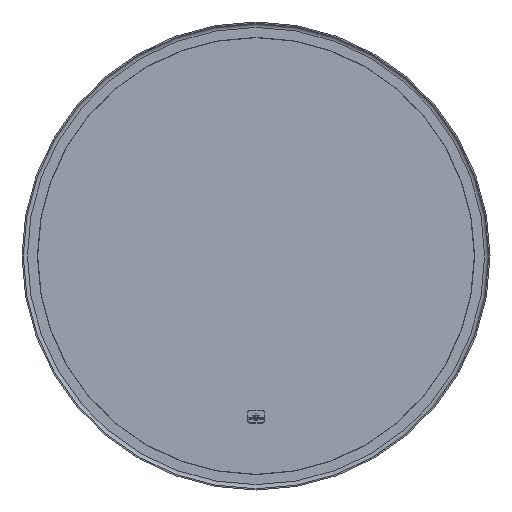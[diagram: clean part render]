
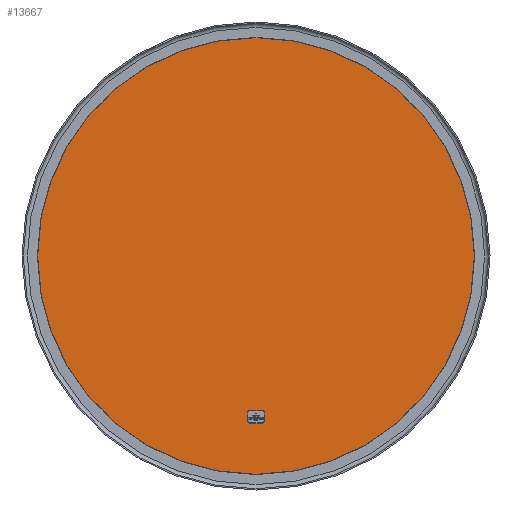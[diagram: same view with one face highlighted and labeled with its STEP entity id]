
A CAD part, front view. The second image highlights one B-rep face of the part: STEP entity #13667.
In plain terms, the highlighted planar face has unit normal (0, -1, 0).
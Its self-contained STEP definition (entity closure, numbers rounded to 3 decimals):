
#259=FACE_BOUND('',#2590,.T.);
#874=CIRCLE('',#14872,4.714);
#876=CIRCLE('',#14876,4.714);
#878=CIRCLE('',#14880,4.714);
#880=CIRCLE('',#14884,4.714);
#882=CIRCLE('',#14889,424.5);
#1673=FACE_OUTER_BOUND('',#2589,.T.);
#2589=EDGE_LOOP('',(#12113));
#2590=EDGE_LOOP('',(#12114,#12115,#12116,#12117,#12118,#12119,#12120,#12121));
#4051=LINE('',#22713,#5482);
#4055=LINE('',#22725,#5486);
#4059=LINE('',#22737,#5490);
#4063=LINE('',#22748,#5494);
#5482=VECTOR('',#18647,15.086);
#5486=VECTOR('',#18659,23.571);
#5490=VECTOR('',#18671,15.086);
#5494=VECTOR('',#18683,23.571);
#6739=VERTEX_POINT('',#22703);
#6740=VERTEX_POINT('',#22704);
#6743=VERTEX_POINT('',#22712);
#6745=VERTEX_POINT('',#22718);
#6747=VERTEX_POINT('',#22724);
#6749=VERTEX_POINT('',#22730);
#6751=VERTEX_POINT('',#22736);
#6753=VERTEX_POINT('',#22742);
#6755=VERTEX_POINT('',#22752);
#8599=EDGE_CURVE('',#6739,#6740,#874,.T.);
#8603=EDGE_CURVE('',#6743,#6739,#4051,.T.);
#8606=EDGE_CURVE('',#6745,#6743,#876,.T.);
#8609=EDGE_CURVE('',#6747,#6745,#4055,.T.);
#8612=EDGE_CURVE('',#6749,#6747,#878,.T.);
#8615=EDGE_CURVE('',#6751,#6749,#4059,.T.);
#8618=EDGE_CURVE('',#6753,#6751,#880,.T.);
#8621=EDGE_CURVE('',#6740,#6753,#4063,.T.);
#8623=EDGE_CURVE('',#6755,#6755,#882,.T.);
#12113=ORIENTED_EDGE('',*,*,#8623,.F.);
#12114=ORIENTED_EDGE('',*,*,#8599,.T.);
#12115=ORIENTED_EDGE('',*,*,#8621,.T.);
#12116=ORIENTED_EDGE('',*,*,#8618,.T.);
#12117=ORIENTED_EDGE('',*,*,#8615,.T.);
#12118=ORIENTED_EDGE('',*,*,#8612,.T.);
#12119=ORIENTED_EDGE('',*,*,#8609,.T.);
#12120=ORIENTED_EDGE('',*,*,#8606,.T.);
#12121=ORIENTED_EDGE('',*,*,#8603,.T.);
#12898=PLANE('',#14888);
#13667=ADVANCED_FACE('',(#1673,#259),#12898,.F.);
#14872=AXIS2_PLACEMENT_3D('',#22705,#18639,#18640);
#14876=AXIS2_PLACEMENT_3D('',#22719,#18652,#18653);
#14880=AXIS2_PLACEMENT_3D('',#22731,#18664,#18665);
#14884=AXIS2_PLACEMENT_3D('',#22743,#18676,#18677);
#14888=AXIS2_PLACEMENT_3D('',#22751,#18687,#18688);
#14889=AXIS2_PLACEMENT_3D('',#22753,#18689,#18690);
#18639=DIRECTION('center_axis',(0.,1.,0.));
#18640=DIRECTION('ref_axis',(0.,0.,1.));
#18647=DIRECTION('',(0.,0.,1.));
#18652=DIRECTION('center_axis',(0.,1.,0.));
#18653=DIRECTION('ref_axis',(-1.,0.,0.));
#18659=DIRECTION('',(-1.,0.,0.));
#18664=DIRECTION('center_axis',(0.,1.,0.));
#18665=DIRECTION('ref_axis',(0.,0.,-1.));
#18671=DIRECTION('',(0.,0.,-1.));
#18676=DIRECTION('center_axis',(0.,1.,0.));
#18677=DIRECTION('ref_axis',(1.,0.,0.));
#18683=DIRECTION('',(1.,0.,0.));
#18687=DIRECTION('center_axis',(0.,1.,0.));
#18688=DIRECTION('ref_axis',(-1.,0.,0.));
#18689=DIRECTION('center_axis',(0.,1.,0.));
#18690=DIRECTION('ref_axis',(1.,0.,0.));
#22703=CARTESIAN_POINT('',(-16.5,6.5,149.8));
#22704=CARTESIAN_POINT('',(-11.786,6.5,154.514));
#22705=CARTESIAN_POINT('Origin',(-11.786,6.5,149.8));
#22712=CARTESIAN_POINT('',(-16.5,6.5,134.714));
#22713=CARTESIAN_POINT('',(-16.5,6.5,294.857));
#22718=CARTESIAN_POINT('',(-11.786,6.5,130.));
#22719=CARTESIAN_POINT('Origin',(-11.786,6.5,134.714));
#22724=CARTESIAN_POINT('',(11.786,6.5,130.));
#22725=CARTESIAN_POINT('',(5.893,6.5,130.));
#22730=CARTESIAN_POINT('',(16.5,6.5,134.714));
#22731=CARTESIAN_POINT('Origin',(11.786,6.5,134.714));
#22736=CARTESIAN_POINT('',(16.5,6.5,149.8));
#22737=CARTESIAN_POINT('',(16.5,6.5,302.4));
#22742=CARTESIAN_POINT('',(11.786,6.5,154.514));
#22743=CARTESIAN_POINT('Origin',(11.786,6.5,149.8));
#22748=CARTESIAN_POINT('',(-5.893,6.5,154.514));
#22751=CARTESIAN_POINT('Origin',(0.,6.5,
455.));
#22752=CARTESIAN_POINT('',(-424.5,6.5,455.));
#22753=CARTESIAN_POINT('Origin',(0.,6.5,
455.));
